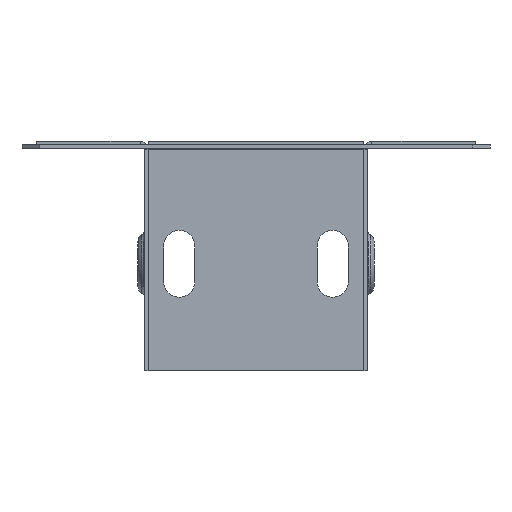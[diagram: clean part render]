
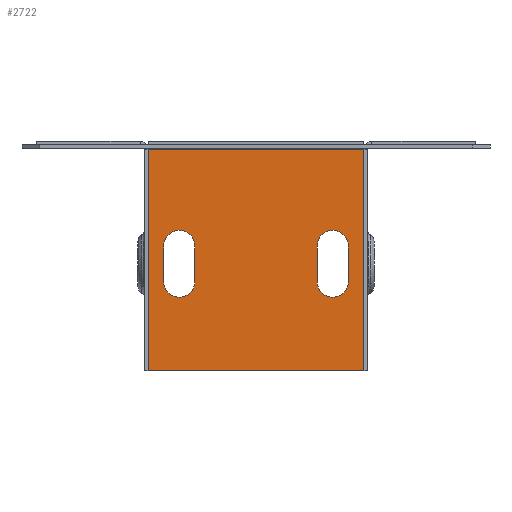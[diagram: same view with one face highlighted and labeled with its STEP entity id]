
A CAD part, left-side view. The second image highlights one B-rep face of the part: STEP entity #2722.
In plain terms, the highlighted planar face has unit normal (-1, 0, 0) as drawn and (0, 1, 0) by its records, which use the part's own axes.
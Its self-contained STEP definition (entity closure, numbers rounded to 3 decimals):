
#46 = EDGE_LOOP ( 'NONE', ( #2959, #2753, #2746, #2676, #2664 ) ) ;
#62 = DIRECTION ( 'NONE',  ( 0., 0., 1. ) ) ;
#107 = VECTOR ( 'NONE', #2478, 1000. ) ;
#192 = VERTEX_POINT ( 'NONE', #696 ) ;
#202 = AXIS2_PLACEMENT_3D ( 'NONE', #1900, #5268, #2383 ) ;
#261 = EDGE_CURVE ( 'NONE', #5121, #5391, #3736, .T. ) ;
#279 = VERTEX_POINT ( 'NONE', #2269 ) ;
#319 = EDGE_CURVE ( 'NONE', #2529, #704, #4728, .T. ) ;
#370 = CARTESIAN_POINT ( 'NONE',  ( 24.2, 0.8, 0. ) ) ;
#410 = LINE ( 'NONE', #3850, #4172 ) ;
#615 = VERTEX_POINT ( 'NONE', #1255 ) ;
#680 = CARTESIAN_POINT ( 'NONE',  ( 13.7, 0.8, 31.5 ) ) ;
#696 = CARTESIAN_POINT ( 'NONE',  ( 24.2, 0.8, 51.5 ) ) ;
#701 = VERTEX_POINT ( 'NONE', #4304 ) ;
#704 = VERTEX_POINT ( 'NONE', #4034 ) ;
#707 = CARTESIAN_POINT ( 'NONE',  ( 24.2, 0.8, 1.8 ) ) ;
#722 = DIRECTION ( 'NONE',  ( 0., 0., 1. ) ) ;
#737 = VECTOR ( 'NONE', #1621, 1000. ) ;
#761 = CIRCLE ( 'NONE', #1753, 3.5 ) ;
#901 = CARTESIAN_POINT ( 'NONE',  ( 17.2, 0.8, 31.5 ) ) ;
#1025 = EDGE_CURVE ( 'NONE', #1829, #5305, #2817, .T. ) ;
#1255 = CARTESIAN_POINT ( 'NONE',  ( 20.7, 0.8, 23.5 ) ) ;
#1281 = EDGE_CURVE ( 'NONE', #2063, #615, #4025, .T. ) ;
#1311 = CIRCLE ( 'NONE', #202, 3.5 ) ;
#1345 = CIRCLE ( 'NONE', #6205, 3.5 ) ;
#1346 = CARTESIAN_POINT ( 'NONE',  ( -13.7, 0.8, 23.5 ) ) ;
#1414 = DIRECTION ( 'NONE',  ( 0., 0., 1. ) ) ;
#1428 = DIRECTION ( 'NONE',  ( -1., 0., 0. ) ) ;
#1561 = CARTESIAN_POINT ( 'NONE',  ( 24.2, 0.8, 0. ) ) ;
#1604 = EDGE_CURVE ( 'NONE', #4040, #2529, #3789, .T. ) ;
#1621 = DIRECTION ( 'NONE',  ( 0., 0., 1. ) ) ;
#1643 = FACE_OUTER_BOUND ( 'NONE', #1995, .T. ) ;
#1691 = EDGE_CURVE ( 'NONE', #3144, #192, #2211, .T. ) ;
#1753 = AXIS2_PLACEMENT_3D ( 'NONE', #901, #4330, #1414 ) ;
#1824 = VECTOR ( 'NONE', #5359, 1000. ) ;
#1829 = VERTEX_POINT ( 'NONE', #2595 ) ;
#1867 = CIRCLE ( 'NONE', #5002, 3.5 ) ;
#1900 = CARTESIAN_POINT ( 'NONE',  ( 17.2, 0.8, 23.5 ) ) ;
#1910 = EDGE_CURVE ( 'NONE', #192, #5305, #4415, .T. ) ;
#1965 = FACE_BOUND ( 'NONE', #3434, .T. ) ;
#1995 = EDGE_LOOP ( 'NONE', ( #3271, #3115, #3042, #2972 ) ) ;
#2040 = DIRECTION ( 'NONE',  ( 0., 0., -1. ) ) ;
#2063 = VERTEX_POINT ( 'NONE', #3000 ) ;
#2148 = ORIENTED_EDGE ( 'NONE', *, *, #4089, .T. ) ;
#2211 = LINE ( 'NONE', #1561, #737 ) ;
#2221 = ORIENTED_EDGE ( 'NONE', *, *, #2271, .T. ) ;
#2234 = ORIENTED_EDGE ( 'NONE', *, *, #2381, .T. ) ;
#2269 = CARTESIAN_POINT ( 'NONE',  ( -20.7, 0.8, 23.5 ) ) ;
#2271 = EDGE_CURVE ( 'NONE', #279, #5316, #1345, .T. ) ;
#2296 = ORIENTED_EDGE ( 'NONE', *, *, #261, .T. ) ;
#2381 = EDGE_CURVE ( 'NONE', #5391, #279, #6009, .T. ) ;
#2383 = DIRECTION ( 'NONE',  ( 0., 0., 1. ) ) ;
#2395 = CARTESIAN_POINT ( 'NONE',  ( -24.2, 0.8, 0. ) ) ;
#2478 = DIRECTION ( 'NONE',  ( 0., 0., -1. ) ) ;
#2509 = VECTOR ( 'NONE', #722, 1000. ) ;
#2514 = VECTOR ( 'NONE', #62, 1000. ) ;
#2517 = ORIENTED_EDGE ( 'NONE', *, *, #4061, .T. ) ;
#2529 = VERTEX_POINT ( 'NONE', #6227 ) ;
#2595 = CARTESIAN_POINT ( 'NONE',  ( -24.2, 0.8, 1.8 ) ) ;
#2664 = ORIENTED_EDGE ( 'NONE', *, *, #4976, .F. ) ;
#2676 = ORIENTED_EDGE ( 'NONE', *, *, #1604, .F. ) ;
#2722 = ADVANCED_FACE ( 'NONE', ( #1643, #4237, #1965 ), #6149, .F. ) ;
#2746 = ORIENTED_EDGE ( 'NONE', *, *, #319, .F. ) ;
#2753 = ORIENTED_EDGE ( 'NONE', *, *, #5417, .F. ) ;
#2773 = CARTESIAN_POINT ( 'NONE',  ( 20.7, 0.8, 31.5 ) ) ;
#2817 = LINE ( 'NONE', #2395, #2514 ) ;
#2876 = CARTESIAN_POINT ( 'NONE',  ( -20.7, 0.8, 31.5 ) ) ;
#2930 = CARTESIAN_POINT ( 'NONE',  ( 24.2, 0.8, 51.5 ) ) ;
#2959 = ORIENTED_EDGE ( 'NONE', *, *, #1281, .F. ) ;
#2972 = ORIENTED_EDGE ( 'NONE', *, *, #6136, .T. ) ;
#2987 = LINE ( 'NONE', #5298, #5413 ) ;
#3000 = CARTESIAN_POINT ( 'NONE',  ( 20.7, 0.8, 31.5 ) ) ;
#3042 = ORIENTED_EDGE ( 'NONE', *, *, #1691, .F. ) ;
#3096 = CARTESIAN_POINT ( 'NONE',  ( 17.2, 0.8, 31.5 ) ) ;
#3115 = ORIENTED_EDGE ( 'NONE', *, *, #1910, .F. ) ;
#3144 = VERTEX_POINT ( 'NONE', #707 ) ;
#3148 = DIRECTION ( 'NONE',  ( 0., 1., 0. ) ) ;
#3171 = DIRECTION ( 'NONE',  ( 0., 0., 1. ) ) ;
#3271 = ORIENTED_EDGE ( 'NONE', *, *, #1025, .T. ) ;
#3430 = AXIS2_PLACEMENT_3D ( 'NONE', #370, #6125, #6085 ) ;
#3434 = EDGE_LOOP ( 'NONE', ( #2517, #2296, #2234, #2221, #2148 ) ) ;
#3736 = CIRCLE ( 'NONE', #4015, 3.5 ) ;
#3742 = CARTESIAN_POINT ( 'NONE',  ( -24.2, 0.8, 51.5 ) ) ;
#3789 = LINE ( 'NONE', #680, #2509 ) ;
#3802 = CARTESIAN_POINT ( 'NONE',  ( -20.7, 0.8, 31.5 ) ) ;
#3850 = CARTESIAN_POINT ( 'NONE',  ( 24.2, 0.8, 1.8 ) ) ;
#4015 = AXIS2_PLACEMENT_3D ( 'NONE', #6075, #6065, #6007 ) ;
#4025 = LINE ( 'NONE', #2773, #107 ) ;
#4034 = CARTESIAN_POINT ( 'NONE',  ( 17.2, 0.8, 35. ) ) ;
#4040 = VERTEX_POINT ( 'NONE', #5779 ) ;
#4061 = EDGE_CURVE ( 'NONE', #701, #5121, #1867, .T. ) ;
#4089 = EDGE_CURVE ( 'NONE', #5316, #701, #2987, .T. ) ;
#4172 = VECTOR ( 'NONE', #1428, 1000. ) ;
#4237 = FACE_BOUND ( 'NONE', #46, .T. ) ;
#4304 = CARTESIAN_POINT ( 'NONE',  ( -13.7, 0.8, 31.5 ) ) ;
#4330 = DIRECTION ( 'NONE',  ( 0., 1., 0. ) ) ;
#4386 = CARTESIAN_POINT ( 'NONE',  ( -17.2, 0.8, 23.5 ) ) ;
#4403 = DIRECTION ( 'NONE',  ( 0., -1., 0. ) ) ;
#4405 = CARTESIAN_POINT ( 'NONE',  ( -17.2, 0.8, 35. ) ) ;
#4410 = DIRECTION ( 'NONE',  ( 0., 0., 1. ) ) ;
#4415 = LINE ( 'NONE', #2930, #1824 ) ;
#4474 = VECTOR ( 'NONE', #2040, 1000. ) ;
#4728 = CIRCLE ( 'NONE', #4984, 3.5 ) ;
#4855 = DIRECTION ( 'NONE',  ( 0., 0., 1. ) ) ;
#4895 = DIRECTION ( 'NONE',  ( 0., -1., 0. ) ) ;
#4915 = CARTESIAN_POINT ( 'NONE',  ( -17.2, 0.8, 31.5 ) ) ;
#4976 = EDGE_CURVE ( 'NONE', #615, #4040, #1311, .T. ) ;
#4984 = AXIS2_PLACEMENT_3D ( 'NONE', #3096, #3148, #3171 ) ;
#5002 = AXIS2_PLACEMENT_3D ( 'NONE', #4915, #4895, #4855 ) ;
#5121 = VERTEX_POINT ( 'NONE', #4405 ) ;
#5268 = DIRECTION ( 'NONE',  ( 0., 1., 0. ) ) ;
#5298 = CARTESIAN_POINT ( 'NONE',  ( -13.7, 0.8, 31.5 ) ) ;
#5305 = VERTEX_POINT ( 'NONE', #3742 ) ;
#5316 = VERTEX_POINT ( 'NONE', #1346 ) ;
#5359 = DIRECTION ( 'NONE',  ( -1., 0., 0. ) ) ;
#5391 = VERTEX_POINT ( 'NONE', #3802 ) ;
#5413 = VECTOR ( 'NONE', #5721, 1000. ) ;
#5417 = EDGE_CURVE ( 'NONE', #704, #2063, #761, .T. ) ;
#5721 = DIRECTION ( 'NONE',  ( 0., 0., 1. ) ) ;
#5779 = CARTESIAN_POINT ( 'NONE',  ( 13.7, 0.8, 23.5 ) ) ;
#6007 = DIRECTION ( 'NONE',  ( 0., 0., 1. ) ) ;
#6009 = LINE ( 'NONE', #2876, #4474 ) ;
#6065 = DIRECTION ( 'NONE',  ( 0., -1., 0. ) ) ;
#6075 = CARTESIAN_POINT ( 'NONE',  ( -17.2, 0.8, 31.5 ) ) ;
#6085 = DIRECTION ( 'NONE',  ( 0., 0., -1. ) ) ;
#6125 = DIRECTION ( 'NONE',  ( 0., -1., 0. ) ) ;
#6136 = EDGE_CURVE ( 'NONE', #3144, #1829, #410, .T. ) ;
#6149 = PLANE ( 'NONE',  #3430 ) ;
#6205 = AXIS2_PLACEMENT_3D ( 'NONE', #4386, #4403, #4410 ) ;
#6227 = CARTESIAN_POINT ( 'NONE',  ( 13.7, 0.8, 31.5 ) ) ;
